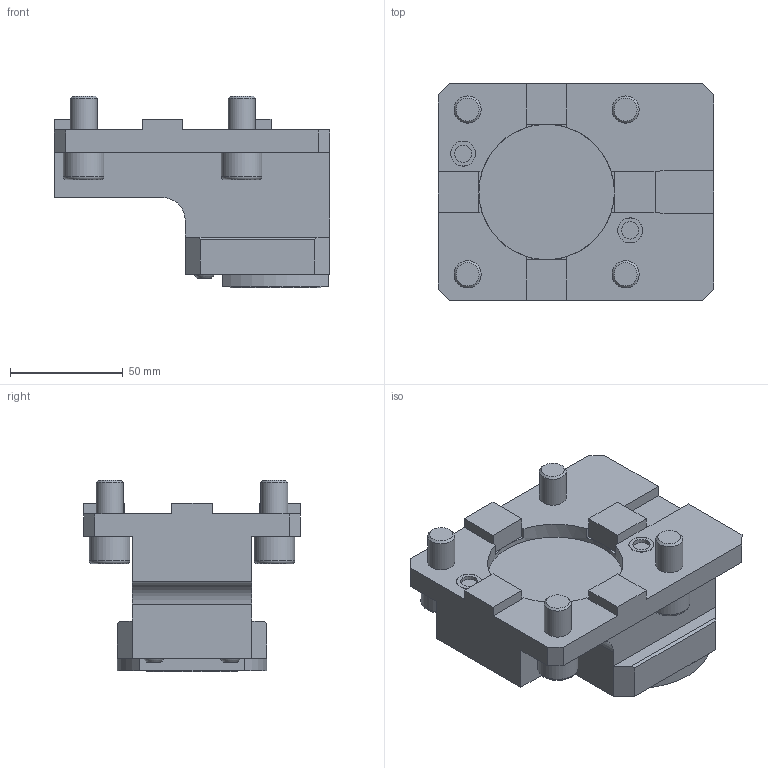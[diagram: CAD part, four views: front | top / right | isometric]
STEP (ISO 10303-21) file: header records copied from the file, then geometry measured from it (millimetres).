
FILE_DESCRIPTION(/* description */ (''),/* implementation_level */ '2;1');
FILE_NAME(/* name */ '198076-UNI',/* time_stamp */ '2022-01-12T10:28:31+01:00',/* author */ (''),/* organization */ (''),/* preprocessor_version */ 'ST-DEVELOPER v16.5',/* originating_system */ 'HiCAD 2017 2201.0 Build 268',/* authorisation */ '');
FILE_SCHEMA (('AUTOMOTIVE_DESIGN { 1 0 10303 214 1 1 1 1 }'));
Length unit declared in the file: millimetre
Products named in the file (2): Root; Teil
Assembly tree (1 placements, depth 2):
  Root
    Teil
Bounding box: 122 x 96 x 85 mm (x, y, z)
Volume: 377274.8 mm3; surface area: 56655.3 mm2
Topology: 1 solids, 2 shells, 219 faces, 543 edges, 349 vertices
Faces by surface type: plane 156, cylinder 31, cone 19, torus 10, sphere 3
Full cylindrical faces by diameter (mm): 2.5 x1, 5 x2, 7.65 x2, 11.01 x2, 11.1 x2, 12 x4, 14 x2, 18 x4, 31.6 x1, 40 x1, 60 x1
Entity records: 11221 total; most frequent: CARTESIAN_POINT 1287, DIRECTION 1075, PRESENTATION_STYLE_ASSIGNMENT 973, COLOUR_RGB 973, DRAUGHTING_PRE_DEFINED_CURVE_FONT 972, CURVE_STYLE 972, OVER_RIDING_STYLED_ITEM 972, ORIENTED_EDGE 972
